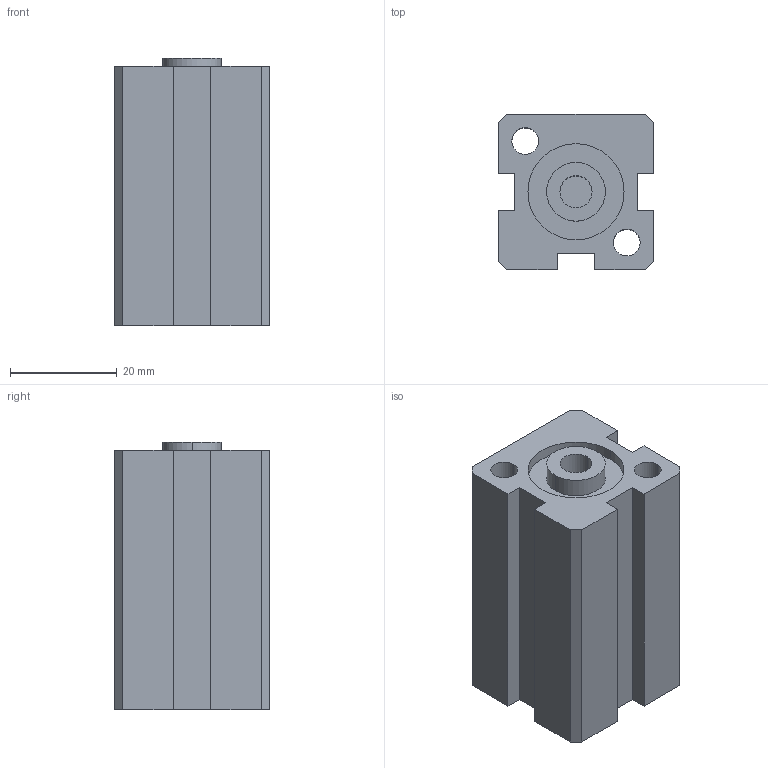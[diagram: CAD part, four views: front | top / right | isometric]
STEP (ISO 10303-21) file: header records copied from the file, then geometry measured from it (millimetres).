
FILE_DESCRIPTION (( 'STEP AP203' ), '1' );
FILE_NAME ('___020.stp_Défaut_sldprt.STEP', '2024-11-30T15:38:38', ( '' ), ( '' ), 'SwSTEP 2.0', 'SolidWorks 2023', '' );
FILE_SCHEMA (( 'CONFIG_CONTROL_DESIGN' ));
Length unit declared in the file: millimetre
Products named in the file (1): ___020.stp_Défaut_sldprt
Bounding box: 29 x 29 x 50.1 mm (x, y, z)
Volume: 34220.8 mm3; surface area: 10428.6 mm2
Topology: 1 solids, 1 shells, 35 faces, 90 edges, 60 vertices
Faces by surface type: plane 25, cylinder 10
Entity records: 1149 total; most frequent: CARTESIAN_POINT 186, DIRECTION 182, ORIENTED_EDGE 180, EDGE_CURVE 90, LINE 70, VECTOR 70, VERTEX_POINT 60, AXIS2_PLACEMENT_3D 56
